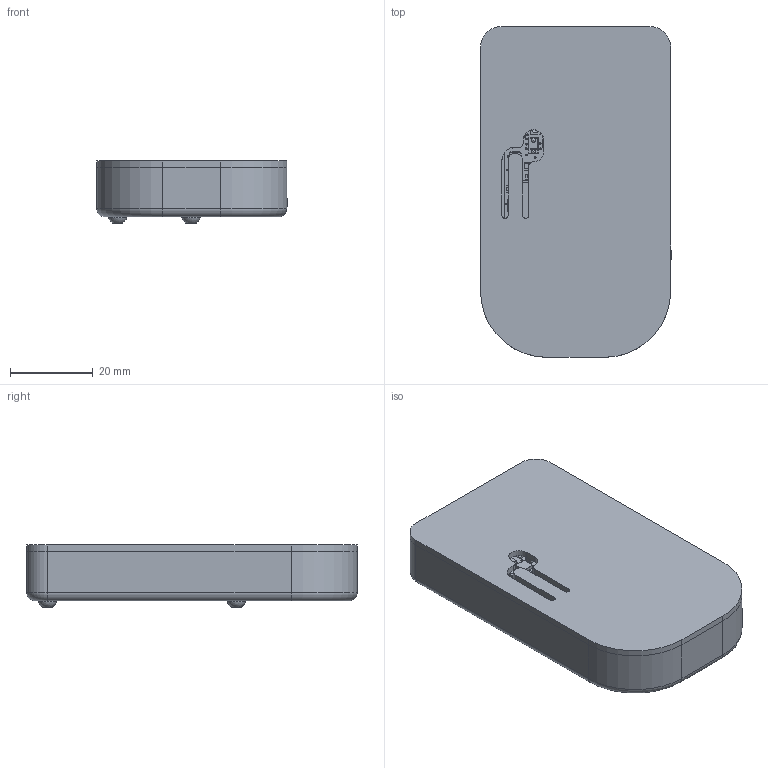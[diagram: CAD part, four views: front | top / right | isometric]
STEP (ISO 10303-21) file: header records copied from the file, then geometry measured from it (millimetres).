
FILE_DESCRIPTION(/* description */ (''),/* implementation_level */ '2;1');
FILE_NAME(/* name */ '/Users/purplemac/Dropbox/3D/Products/AirMouse BLE/CAD/AirMouse BLE.step',/* time_stamp */ '2021-09-08T13:59:30-04:00',/* author */ (''),/* organization */ (''),/* preprocessor_version */ 'ST-DEVELOPER v18.1',/* originating_system */ 'Autodesk Translation Framework v10.10.0.1391',/* authorisation */ '');
FILE_SCHEMA (('AUTOMOTIVE_DESIGN { 1 0 10303 214 3 1 1 }'));
Products named in the file (36): AirMouse BLE; Assembly; Electronics; Adafruit Feather nRF52840 Sense; PCB Component; Board; KMR2; AP2112(3.3V); RED; 4u20329; MBR054; DMG2305; BLUE; MDBT50; GD25Q16; WS2812B3535; 2.2K; 10uF; DNP; 4.7K; LSM6DS33; LIS3MDL; APDS-9960; SHT30; MIC_PDM; BMP280; CON_JST_PH_2PIN_MTPH2; slide switch v2; 400mAh Battery; Case; top cover; hardware; screw set; m2.5 x 10mm; nuts set; m2.5 nut
Assembly tree (59 placements, depth 6):
  AirMouse BLE
    Assembly
      Electronics
        Adafruit Feather nRF52840 Sense
          PCB Component
            Board
            KMR2  x2
            AP2112(3.3V)  x2
            RED  x2
            4u20329
            MBR054
            DMG2305
            BLUE
            MDBT50
            GD25Q16
            WS2812B3535
            2.2K  x11
            10uF  x5
            DNP
            4.7K  x2
            LSM6DS33
            LIS3MDL
            APDS-9960
            SHT30
            MIC_PDM
            BMP280
            CON_JST_PH_2PIN_MTPH2
        slide switch v2
        400mAh Battery
      Case
      top cover
      hardware
        screw set
          m2.5 x 10mm  x4
        nuts set
          m2.5 nut  x4
Bounding box: 46.2 x 80 x 15 mm (x, y, z)
Volume: 22842 mm3; surface area: 29005.8 mm2
Topology: 112 solids, 112 shells, 3016 faces, 7873 edges, 5062 vertices
Faces by surface type: plane 2197, cylinder 612, cone 96, bspline 52, sphere 39, torus 20
Full cylindrical faces by diameter (mm): 0.2 x2, 0.3 x2, 0.394 x102, 0.65 x1, 0.7 x2, 0.8 x2, 0.9 x1, 1 x28, 1.1 x1, 1.5 x1, 2.5 x10, 2.54 x2, 3 x5, 3.5 x1, 4.079 x4, 4.5 x4, 6 x4
Entity records: 72213 total; most frequent: CARTESIAN_POINT 13714, ORIENTED_EDGE 11686, DIRECTION 11431, EDGE_CURVE 5843, LINE 4707, VECTOR 4707, VERTEX_POINT 3779, AXIS2_PLACEMENT_3D 3362
